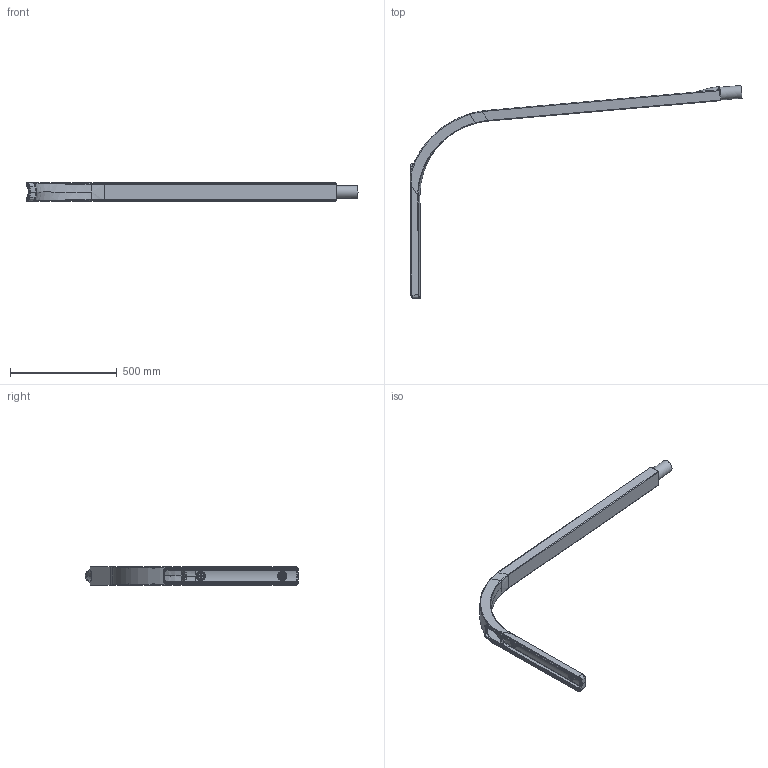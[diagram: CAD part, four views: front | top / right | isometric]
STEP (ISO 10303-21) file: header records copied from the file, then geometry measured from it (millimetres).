
FILE_DESCRIPTION((''),'2;1');
FILE_NAME('3350877','2012-01-16T',('IMAU'),('n|p|k industrial design bv'),'PRO/ENGINEER BY PARAMETRIC TECHNOLOGY CORPORATION, 2007390','PRO/ENGINEER BY PARAMETRIC TECHNOLOGY CORPORATION, 2007390','');
FILE_SCHEMA(('CONFIG_CONTROL_DESIGN'));
Length unit declared in the file: millimetre
Products named in the file (1): 3350877
Bounding box: 1552.5 x 996.04 x 86.84 mm (x, y, z)
Volume: 2987365.5 mm3; surface area: 988345.2 mm2
Topology: 1 solids, 1 shells, 453 faces, 1047 edges, 599 vertices
Faces by surface type: bspline 272, cylinder 62, plane 52, extrusion 29, cone 16, torus 12, sphere 10
Entity records: 23788 total; most frequent: CARTESIAN_POINT 15422, ORIENTED_EDGE 2090, DIRECTION 1195, EDGE_CURVE 1045, VERTEX_POINT 599, B_SPLINE_CURVE_WITH_KNOTS 540, AXIS2_PLACEMENT_3D 480, EDGE_LOOP 468
